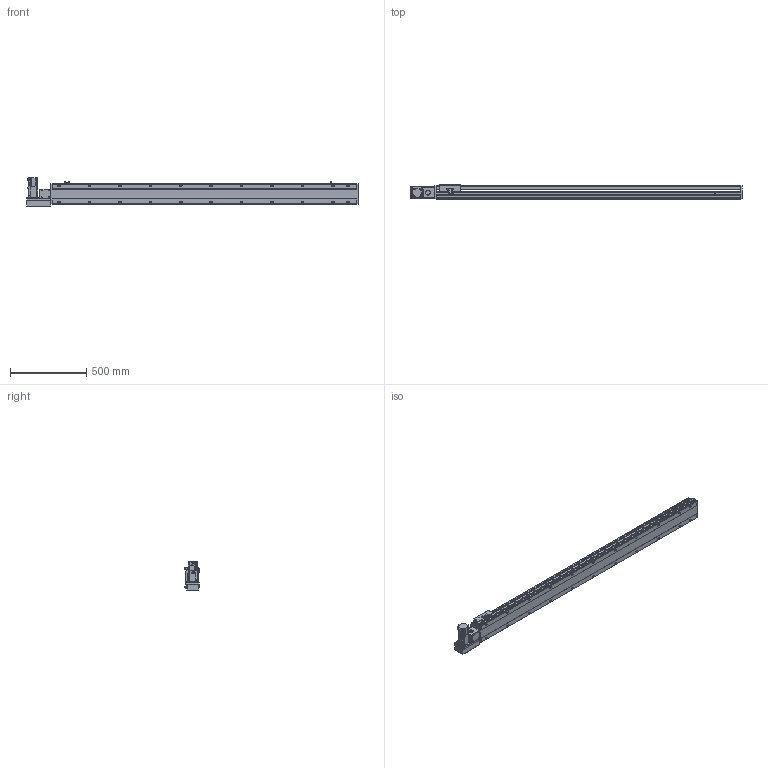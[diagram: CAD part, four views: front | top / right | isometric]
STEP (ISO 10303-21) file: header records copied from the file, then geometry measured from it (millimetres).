
FILE_DESCRIPTION(/* description */ ('STEP AP214'),/* implementation_level */ '2;1');
FILE_NAME(/* name */ 'PBS140S-P40-S1750-L-T40-C1-N(0)',/* time_stamp */ '2022-06-09T02:02:42+02:00',/* author */ ('License CC BY-ND 4.0'),/* organization */ ('CADENAS'),/* preprocessor_version */ 'ST-DEVELOPER v18.102',/* originating_system */ 'PARTsolutions',/* authorisation */ ' ');
FILE_SCHEMA (('AUTOMOTIVE_DESIGN {1 0 10303 214 3 1 1}'));
Length unit declared in the file: millimetre
Products named in the file (7): PBS140S-P40-S1750-L-T40-C1-N(0); PBS140S_sensor; PBS140S_plant; PBS140S_sliser; T40-p1; PBS140ST-L_motors; PBS140S-S1750()_body
Assembly tree (8 placements, depth 2):
  PBS140S-P40-S1750-L-T40-C1-N(0)
    PBS140S_sensor  x3
    PBS140S_plant
    PBS140S_sliser
    T40-p1
    PBS140ST-L_motors
    PBS140S-S1750()_body
Bounding box: 2183 x 93 x 189.7 mm (x, y, z)
Volume: 10454145.2 mm3; surface area: 1778216.1 mm2
Topology: 8 solids, 8 shells, 1147 faces, 3031 edges, 1983 vertices
Faces by surface type: plane 720, cylinder 369, cone 48, sphere 8, torus 2
Full cylindrical faces by diameter (mm): 3.242 x4, 4 x2, 4.134 x4, 4.4 x8, 4.5 x2, 4.8 x4, 4.917 x30, 5.5 x7, 6 x2, 7 x24, 7.5 x8, 8 x12, 8.5 x4, 10.5 x22, 14 x1, 30 x2, 50 x2
Entity records: 32870 total; most frequent: CARTESIAN_POINT 6152, DIRECTION 5558, ORIENTED_EDGE 5242, EDGE_CURVE 2621, AXIS2_PLACEMENT_3D 1949, VERTEX_POINT 1825, LINE 1660, VECTOR 1660
